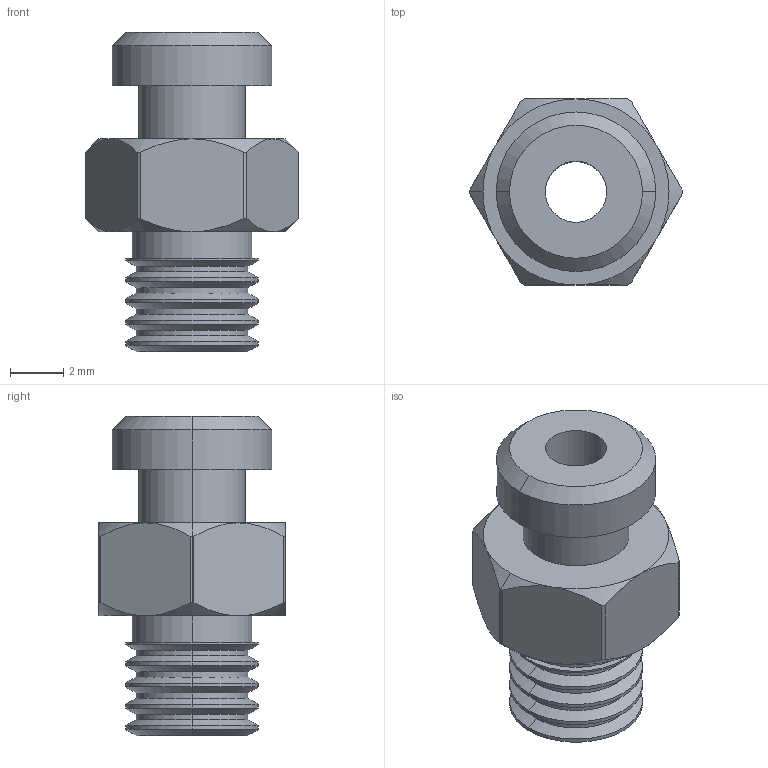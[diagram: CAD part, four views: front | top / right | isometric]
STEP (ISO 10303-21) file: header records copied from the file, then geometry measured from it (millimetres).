
FILE_DESCRIPTION (( 'STEP AP214' ), '1' );
FILE_NAME ('VM13-M5.STEP', '2019-11-14T02:33:27', ( '微软用户' ), ( '微软中国' ), 'SwSTEP 2.0', 'SolidWorks 2016', '' );
FILE_SCHEMA (( 'AUTOMOTIVE_DESIGN' ));
Length unit declared in the file: millimetre
Products named in the file (1): VM13-M5
Bounding box: 8 x 7 x 12 mm (x, y, z)
Volume: 250.6 mm3; surface area: 426.7 mm2
Topology: 1 solids, 1 shells, 79 faces, 170 edges, 97 vertices
Faces by surface type: cone 34, cylinder 33, plane 12
Entity records: 2251 total; most frequent: CARTESIAN_POINT 491, DIRECTION 391, ORIENTED_EDGE 340, EDGE_CURVE 170, AXIS2_PLACEMENT_3D 165, VERTEX_POINT 97, CIRCLE 85, EDGE_LOOP 85
